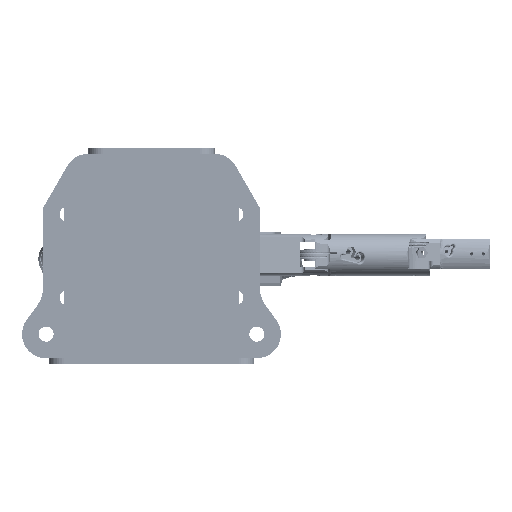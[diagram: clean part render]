
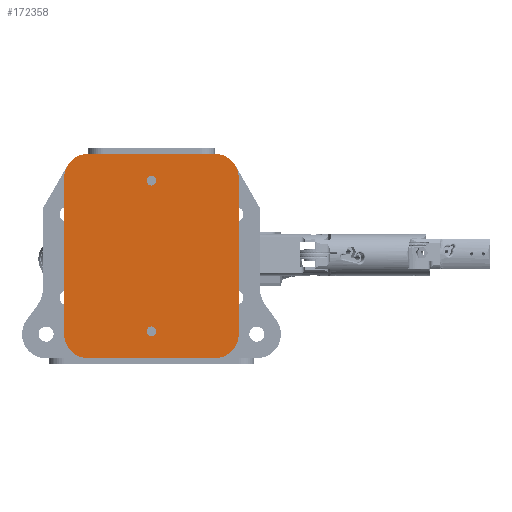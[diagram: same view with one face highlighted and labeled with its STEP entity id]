
A CAD part, front view. The second image highlights one B-rep face of the part: STEP entity #172358.
In plain terms, the highlighted planar face has unit normal (0, -1, 0) as drawn and (0, 0, -1) by its records, which use the part's own axes.
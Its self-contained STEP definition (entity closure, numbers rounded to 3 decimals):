
#53 = CARTESIAN_POINT ( 'NONE',  ( -21., 25.955, 0. ) ) ;
#260 = EDGE_CURVE ( 'NONE', #93091, #155336, #148271, .T. ) ;
#615 = EDGE_LOOP ( 'NONE', ( #3567, #57914 ) ) ;
#908 = DIRECTION ( 'NONE',  ( 0., 0., -1. ) ) ;
#2637 = CARTESIAN_POINT ( 'NONE',  ( -1.6, -25., 0. ) ) ;
#2685 = CIRCLE ( 'NONE', #94043, 8. ) ;
#3567 = ORIENTED_EDGE ( 'NONE', *, *, #79601, .T. ) ;
#5284 = AXIS2_PLACEMENT_3D ( 'NONE', #31815, #56923, #152522 ) ;
#6094 = DIRECTION ( 'NONE',  ( 0., 0., 1. ) ) ;
#6661 = CIRCLE ( 'NONE', #103814, 8. ) ;
#7381 = EDGE_CURVE ( 'NONE', #24563, #133628, #2685, .T. ) ;
#8738 = CARTESIAN_POINT ( 'NONE',  ( 21., 33.955, 0. ) ) ;
#9602 = DIRECTION ( 'NONE',  ( 1., 0., 0. ) ) ;
#10295 = DIRECTION ( 'NONE',  ( 1., 0., 0. ) ) ;
#11154 = CARTESIAN_POINT ( 'NONE',  ( -29., 25.955, 0. ) ) ;
#18311 = CARTESIAN_POINT ( 'NONE',  ( 0., -25., 0. ) ) ;
#22729 = ORIENTED_EDGE ( 'NONE', *, *, #136191, .T. ) ;
#23037 = CARTESIAN_POINT ( 'NONE',  ( 21., -25.955, 0. ) ) ;
#23958 = VERTEX_POINT ( 'NONE', #77963 ) ;
#24563 = VERTEX_POINT ( 'NONE', #8738 ) ;
#25747 = CARTESIAN_POINT ( 'NONE',  ( 1.6, 25., 0. ) ) ;
#25918 = CARTESIAN_POINT ( 'NONE',  ( 21., 25.955, 0. ) ) ;
#26407 = ORIENTED_EDGE ( 'NONE', *, *, #154498, .F. ) ;
#26690 = DIRECTION ( 'NONE',  ( 1., 0., 0. ) ) ;
#26794 = EDGE_CURVE ( 'NONE', #93091, #94014, #68078, .T. ) ;
#30918 = ORIENTED_EDGE ( 'NONE', *, *, #260, .F. ) ;
#30966 = DIRECTION ( 'NONE',  ( 0., 0., 1. ) ) ;
#31815 = CARTESIAN_POINT ( 'NONE',  ( -21., -25.955, 0. ) ) ;
#31817 = CARTESIAN_POINT ( 'NONE',  ( 0., 25., 0. ) ) ;
#31895 = FACE_OUTER_BOUND ( 'NONE', #59093, .T. ) ;
#34325 = CARTESIAN_POINT ( 'NONE',  ( 29., -33.955, 0. ) ) ;
#37533 = DIRECTION ( 'NONE',  ( 1., 0., 0. ) ) ;
#37919 = AXIS2_PLACEMENT_3D ( 'NONE', #31817, #30966, #114907 ) ;
#41264 = VERTEX_POINT ( 'NONE', #51379 ) ;
#41782 = DIRECTION ( 'NONE',  ( 0., 0., 1. ) ) ;
#42642 = PLANE ( 'NONE',  #95055 ) ;
#42825 = DIRECTION ( 'NONE',  ( 0., 0., -1. ) ) ;
#44201 = ORIENTED_EDGE ( 'NONE', *, *, #172727, .F. ) ;
#45226 = EDGE_LOOP ( 'NONE', ( #145381, #168518 ) ) ;
#46497 = CIRCLE ( 'NONE', #37919, 1.6 ) ;
#51379 = CARTESIAN_POINT ( 'NONE',  ( -1.6, 25., 0. ) ) ;
#51534 = CARTESIAN_POINT ( 'NONE',  ( 29., 25.955, 0. ) ) ;
#54593 = DIRECTION ( 'NONE',  ( 1., 0., 0. ) ) ;
#56923 = DIRECTION ( 'NONE',  ( 0., 0., -1. ) ) ;
#57914 = ORIENTED_EDGE ( 'NONE', *, *, #100266, .T. ) ;
#59093 = EDGE_LOOP ( 'NONE', ( #26407, #115007, #138432, #98863, #44201, #22729, #30918, #132593 ) ) ;
#61185 = CARTESIAN_POINT ( 'NONE',  ( 29., -25.955, 0. ) ) ;
#64173 = DIRECTION ( 'NONE',  ( 0., 0., -1. ) ) ;
#66749 = CIRCLE ( 'NONE', #166676, 1.6 ) ;
#66919 = CARTESIAN_POINT ( 'NONE',  ( -29., -33.955, 0. ) ) ;
#68078 = CIRCLE ( 'NONE', #5284, 8. ) ;
#71245 = EDGE_CURVE ( 'NONE', #41264, #144036, #46497, .T. ) ;
#71421 = CIRCLE ( 'NONE', #91304, 1.6 ) ;
#71442 = VERTEX_POINT ( 'NONE', #11154 ) ;
#72137 = CARTESIAN_POINT ( 'NONE',  ( -21., 25.955, 0. ) ) ;
#72783 = DIRECTION ( 'NONE',  ( 0., 0., 1. ) ) ;
#74543 = LINE ( 'NONE', #34325, #92406 ) ;
#77963 = CARTESIAN_POINT ( 'NONE',  ( -21., 33.955, 0. ) ) ;
#79601 = EDGE_CURVE ( 'NONE', #131834, #141288, #71421, .T. ) ;
#84726 = VECTOR ( 'NONE', #26690, 1000. ) ;
#91304 = AXIS2_PLACEMENT_3D ( 'NONE', #161801, #176060, #37533 ) ;
#92101 = DIRECTION ( 'NONE',  ( -1., 0., 0. ) ) ;
#92406 = VECTOR ( 'NONE', #103123, 1000. ) ;
#93091 = VERTEX_POINT ( 'NONE', #116889 ) ;
#94014 = VERTEX_POINT ( 'NONE', #140201 ) ;
#94043 = AXIS2_PLACEMENT_3D ( 'NONE', #25918, #42825, #176090 ) ;
#95055 = AXIS2_PLACEMENT_3D ( 'NONE', #72137, #41782, #140950 ) ;
#97937 = AXIS2_PLACEMENT_3D ( 'NONE', #53, #908, #54593 ) ;
#98863 = ORIENTED_EDGE ( 'NONE', *, *, #7381, .T. ) ;
#98893 = FACE_BOUND ( 'NONE', #45226, .T. ) ;
#99633 = EDGE_CURVE ( 'NONE', #71442, #23958, #120778, .T. ) ;
#100266 = EDGE_CURVE ( 'NONE', #141288, #131834, #66749, .T. ) ;
#103123 = DIRECTION ( 'NONE',  ( 0., 1., 0. ) ) ;
#103814 = AXIS2_PLACEMENT_3D ( 'NONE', #23037, #64173, #9602 ) ;
#104191 = CARTESIAN_POINT ( 'NONE',  ( 0., 25., 0. ) ) ;
#105565 = CARTESIAN_POINT ( 'NONE',  ( -29., 33.955, 0. ) ) ;
#106434 = LINE ( 'NONE', #105565, #115056 ) ;
#110338 = CIRCLE ( 'NONE', #167419, 1.6 ) ;
#114767 = DIRECTION ( 'NONE',  ( 1., 0., 0. ) ) ;
#114907 = DIRECTION ( 'NONE',  ( 1., 0., 0. ) ) ;
#115007 = ORIENTED_EDGE ( 'NONE', *, *, #99633, .T. ) ;
#115056 = VECTOR ( 'NONE', #92101, 1000. ) ;
#116889 = CARTESIAN_POINT ( 'NONE',  ( -21., -33.955, 0. ) ) ;
#120778 = CIRCLE ( 'NONE', #97937, 8. ) ;
#120786 = LINE ( 'NONE', #150331, #125286 ) ;
#124274 = EDGE_CURVE ( 'NONE', #24563, #23958, #106434, .T. ) ;
#125286 = VECTOR ( 'NONE', #149447, 1000. ) ;
#131537 = CARTESIAN_POINT ( 'NONE',  ( 1.6, -25., 0. ) ) ;
#131834 = VERTEX_POINT ( 'NONE', #131537 ) ;
#132593 = ORIENTED_EDGE ( 'NONE', *, *, #26794, .T. ) ;
#133628 = VERTEX_POINT ( 'NONE', #51534 ) ;
#136191 = EDGE_CURVE ( 'NONE', #169134, #155336, #6661, .T. ) ;
#138432 = ORIENTED_EDGE ( 'NONE', *, *, #124274, .F. ) ;
#140201 = CARTESIAN_POINT ( 'NONE',  ( -29., -25.955, 0. ) ) ;
#140950 = DIRECTION ( 'NONE',  ( 1., 0., 0. ) ) ;
#141288 = VERTEX_POINT ( 'NONE', #2637 ) ;
#144036 = VERTEX_POINT ( 'NONE', #25747 ) ;
#145381 = ORIENTED_EDGE ( 'NONE', *, *, #167100, .T. ) ;
#148271 = LINE ( 'NONE', #66919, #84726 ) ;
#149447 = DIRECTION ( 'NONE',  ( 0., -1., 0. ) ) ;
#150331 = CARTESIAN_POINT ( 'NONE',  ( -29., -33.955, 0. ) ) ;
#152522 = DIRECTION ( 'NONE',  ( 1., 0., 0. ) ) ;
#154498 = EDGE_CURVE ( 'NONE', #71442, #94014, #120786, .T. ) ;
#155336 = VERTEX_POINT ( 'NONE', #170076 ) ;
#161801 = CARTESIAN_POINT ( 'NONE',  ( 0., -25., 0. ) ) ;
#166039 = FACE_BOUND ( 'NONE', #615, .T. ) ;
#166676 = AXIS2_PLACEMENT_3D ( 'NONE', #18311, #72783, #114767 ) ;
#167100 = EDGE_CURVE ( 'NONE', #144036, #41264, #110338, .T. ) ;
#167419 = AXIS2_PLACEMENT_3D ( 'NONE', #104191, #6094, #10295 ) ;
#168518 = ORIENTED_EDGE ( 'NONE', *, *, #71245, .T. ) ;
#169134 = VERTEX_POINT ( 'NONE', #61185 ) ;
#170076 = CARTESIAN_POINT ( 'NONE',  ( 21., -33.955, 0. ) ) ;
#172358 = ADVANCED_FACE ( 'NONE', ( #98893, #166039, #31895 ), #42642, .F. ) ;
#172727 = EDGE_CURVE ( 'NONE', #169134, #133628, #74543, .T. ) ;
#176060 = DIRECTION ( 'NONE',  ( 0., 0., 1. ) ) ;
#176090 = DIRECTION ( 'NONE',  ( 1., 0., 0. ) ) ;
